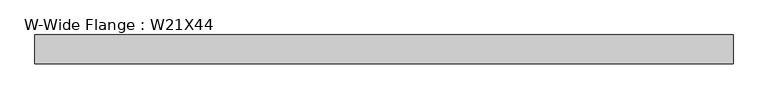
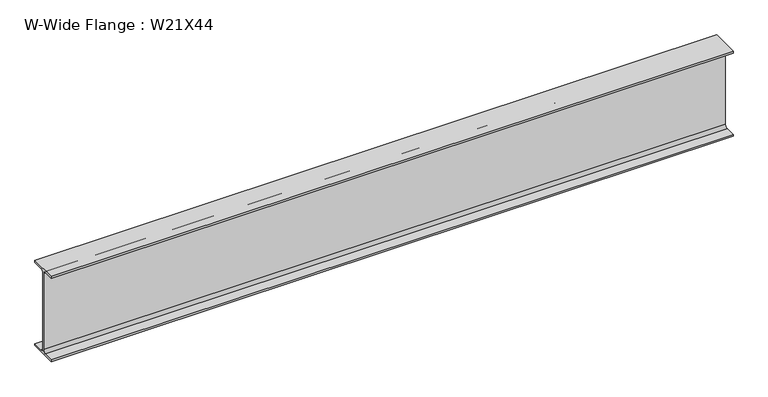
"""IFC4 building model written with IfcOpenShell, lengths in millimetres: beam geometry, W-Wide Flange : W21X44."""

from ifc_helpers import new_model, si_unit, point, frame, frame_2d, origin, place, context, project, spatial, polyline, circle_curve, trimmed, segment, composite_curve, outline, extrude, source, transform, mapped, element, save


def w_wide_flange_w21x44_85607f17(model_context):
    return source(origin(), model_context, "Body", "SweptSolid", [
        extrude(outline(composite_curve([segment(polyline([(82.55, -251.46), (82.55, -262.89), (-82.55, -262.89), (-82.55, -251.46), (-21.59, -251.46)]), True, "CONTINUOUS"), segment(trimmed(circle_curve(frame_2d((-21.59, -234.315)), 17.145), [point((-21.59, -251.46))], [point((-4.445, -234.315))], True, "CARTESIAN"), True, "CONTINUOUS"), segment(polyline([(-4.445, -234.315), (-4.445, 234.315)]), True, "CONTINUOUS"), segment(trimmed(circle_curve(frame_2d((-21.59, 234.315)), 17.145), [point((-4.445, 234.315))], [point((-21.59, 251.46))], True, "CARTESIAN"), True, "CONTINUOUS"), segment(polyline([(-21.59, 251.46), (-82.55, 251.46), (-82.55, 262.89), (82.55, 262.89), (82.55, 251.46), (21.59, 251.46)]), True, "CONTINUOUS"), segment(trimmed(circle_curve(frame_2d((21.59, 234.315)), 17.145), [point((21.59, 251.46))], [point((4.445, 234.315))], True, "CARTESIAN"), True, "CONTINUOUS"), segment(polyline([(4.445, 234.315), (4.445, -234.315)]), True, "CONTINUOUS"), segment(trimmed(circle_curve(frame_2d((21.59, -234.315)), 17.145), [point((4.445, -234.315))], [point((21.59, -251.46))], True, "CARTESIAN"), True, "CONTINUOUS"), segment(polyline([(21.59, -251.46), (82.55, -251.46)]), True, "CONTINUOUS")], self_intersect=False)), frame((-2039.805346, 0.0, 0.0), z_axis=(1.0, 0.0, 0.0), x_axis=(0.0, 1.0, 0.0)), (0.0, 0.0, 1.0), 3975.470692),
    ])


if __name__ == "__main__":
    model = new_model("IFC4")
    model_context = context("Model", 3, world=origin())
    ifc_project = project(units=[si_unit("LENGTHUNIT", "METRE", prefix="MILLI")], contexts=[model_context])
    site = spatial("IfcSite", under=ifc_project)
    building = spatial("IfcBuilding", under=site)
    placement = place(None, origin())
    w_wide_flange_w21x44_shape = w_wide_flange_w21x44_85607f17(model_context)
    element("IfcBeam", 1, ObjectType="W-Wide Flange : W21X44", at=placement, inside=building, context=model_context, shape_type="MappedRepresentation", body=[
        mapped(w_wide_flange_w21x44_shape, transform((0.0, 0.0, 0.0), x_axis=(1.0, 0.0, 0.0), y_axis=(0.0, 1.0, 0.0), z_axis=(0.0, 0.0, 1.0))),
    ])
    save(model, "model.ifc")
